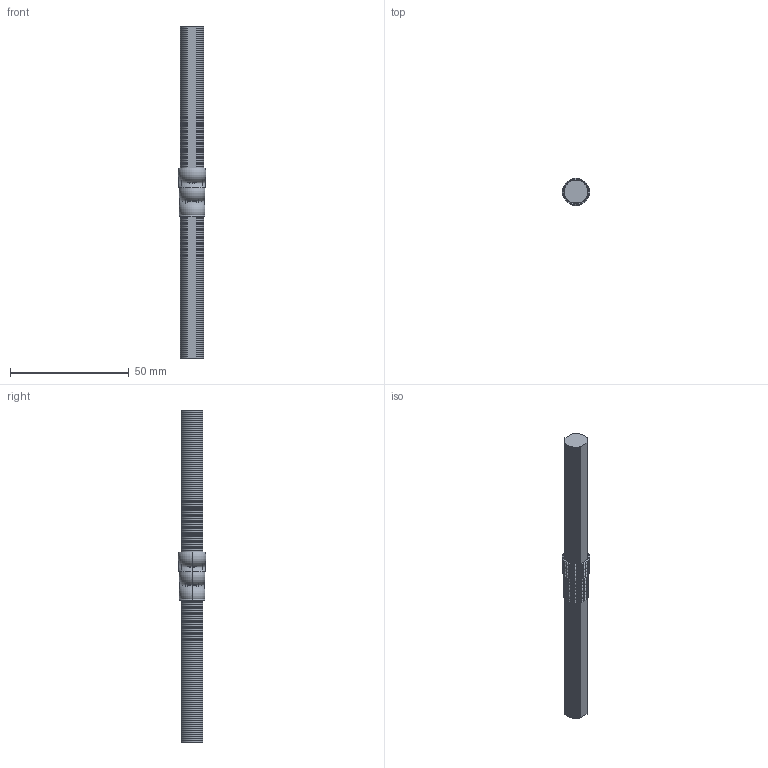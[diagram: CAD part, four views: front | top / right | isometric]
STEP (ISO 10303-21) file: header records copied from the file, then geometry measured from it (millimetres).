
FILE_DESCRIPTION(/* description */ ('STEP AP214'),/* implementation_level */ '2;1');
FILE_NAME(/* name */ 'DCF77_ANTENA_10x140mm.step',/* time_stamp */ '2025-07-12T13:13:43+02:00',/* author */ (''),/* organization */ (''),/* preprocessor_version */ 'ST-DEVELOPER v20.1',/* originating_system */ 'Autodesk Translation Framework v14.10.0.0',/* authorisation */ '');
FILE_SCHEMA (('AUTOMOTIVE_DESIGN { 1 0 10303 214 3 1 1 }'));
Length unit declared in the file: millimetre
Products named in the file (1): GEH1
Bounding box: 11.6 x 11.6 x 140 mm (x, y, z)
Volume: 10964.5 mm3; surface area: 7517.6 mm2
Topology: 72 solids, 72 shells, 378 faces, 777 edges, 401 vertices
Faces by surface type: plane 236, torus 142
Entity records: 10066 total; most frequent: DIRECTION 2036, CARTESIAN_POINT 1565, ORIENTED_EDGE 1562, AXIS2_PLACEMENT_3D 876, EDGE_CURVE 781, CIRCLE 497, VERTEX_POINT 405, FACE_OUTER_BOUND 378
